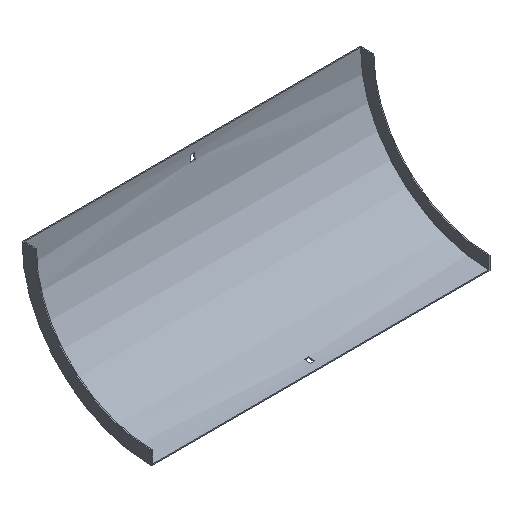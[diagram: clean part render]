
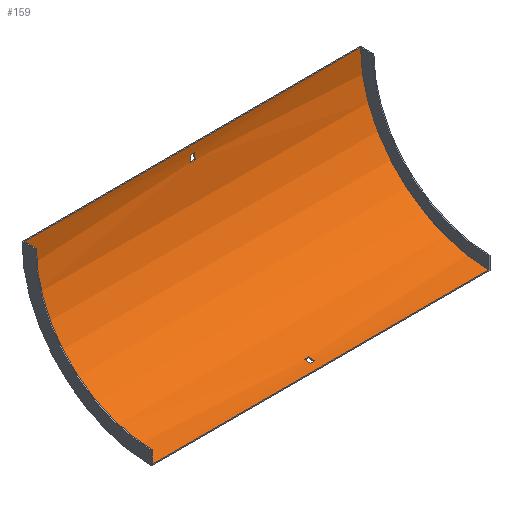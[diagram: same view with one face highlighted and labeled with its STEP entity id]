
A CAD part, isometric view. The second image highlights one B-rep face of the part: STEP entity #159.
In plain terms, the highlighted cylindrical face has radius 192.5 mm (diameter 385 mm), a partial arc.
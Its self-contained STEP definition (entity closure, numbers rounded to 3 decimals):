
#1 = VERTEX_POINT ( 'NONE', #11 ) ;
#2 = CARTESIAN_POINT ( 'NONE',  ( -3.25, -182., -192.126 ) ) ;
#11 = CARTESIAN_POINT ( 'NONE',  ( 3.25, -2.649, -21. ) ) ;
#17 = VERTEX_POINT ( 'NONE', #482 ) ;
#25 = FACE_BOUND ( 'NONE', #585, .T. ) ;
#39 = CARTESIAN_POINT ( 'NONE',  ( -252., -194., -192.5 ) ) ;
#43 = CARTESIAN_POINT ( 'NONE',  ( 3.25, -182., -192.126 ) ) ;
#53 = VERTEX_POINT ( 'NONE', #596 ) ;
#54 = VECTOR ( 'NONE', #331, 1000. ) ;
#59 = ORIENTED_EDGE ( 'NONE', *, *, #245, .F. ) ;
#68 = CARTESIAN_POINT ( 'NONE',  ( -3.25, -173., -191.351 ) ) ;
#73 = CARTESIAN_POINT ( 'NONE',  ( 253.5, -1.874, -12. ) ) ;
#75 = DIRECTION ( 'NONE',  ( 0., 0., 1. ) ) ;
#79 = LINE ( 'NONE', #73, #186 ) ;
#83 = LINE ( 'NONE', #181, #129 ) ;
#91 = LINE ( 'NONE', #426, #594 ) ;
#92 = VERTEX_POINT ( 'NONE', #173 ) ;
#93 = CARTESIAN_POINT ( 'NONE',  ( -3.25, -194., 0. ) ) ;
#103 = ORIENTED_EDGE ( 'NONE', *, *, #358, .F. ) ;
#105 = AXIS2_PLACEMENT_3D ( 'NONE', #492, #223, #269 ) ;
#112 = VECTOR ( 'NONE', #418, 1000. ) ;
#113 = DIRECTION ( 'NONE',  ( 0., 0., 1. ) ) ;
#117 = AXIS2_PLACEMENT_3D ( 'NONE', #171, #174, #451 ) ;
#120 = EDGE_LOOP ( 'NONE', ( #537, #59, #254, #300 ) ) ;
#129 = VECTOR ( 'NONE', #280, 1000. ) ;
#141 = DIRECTION ( 'NONE',  ( -1., 0., 0. ) ) ;
#147 = CIRCLE ( 'NONE', #411, 192.5 ) ;
#157 = ORIENTED_EDGE ( 'NONE', *, *, #593, .F. ) ;
#159 = ADVANCED_FACE ( 'NONE', ( #25, #225, #592 ), #408, .F. ) ;
#163 = VERTEX_POINT ( 'NONE', #2 ) ;
#171 = CARTESIAN_POINT ( 'NONE',  ( 3.25, -194., 0. ) ) ;
#173 = CARTESIAN_POINT ( 'NONE',  ( -3.25, -2.649, -21. ) ) ;
#174 = DIRECTION ( 'NONE',  ( 1., 0., 0. ) ) ;
#181 = CARTESIAN_POINT ( 'NONE',  ( 253.5, -182., -192.126 ) ) ;
#186 = VECTOR ( 'NONE', #547, 1000. ) ;
#208 = EDGE_CURVE ( 'NONE', #92, #1, #292, .T. ) ;
#212 = VERTEX_POINT ( 'NONE', #43 ) ;
#220 = CARTESIAN_POINT ( 'NONE',  ( 3.25, -194., 0. ) ) ;
#223 = DIRECTION ( 'NONE',  ( 1., 0., 0. ) ) ;
#225 = FACE_OUTER_BOUND ( 'NONE', #120, .T. ) ;
#226 = CARTESIAN_POINT ( 'NONE',  ( 252., -194., 0. ) ) ;
#233 = VERTEX_POINT ( 'NONE', #243 ) ;
#234 = DIRECTION ( 'NONE',  ( 1., 0., 0. ) ) ;
#240 = CIRCLE ( 'NONE', #259, 192.5 ) ;
#243 = CARTESIAN_POINT ( 'NONE',  ( -252., -1.5, 0. ) ) ;
#245 = EDGE_CURVE ( 'NONE', #53, #571, #91, .T. ) ;
#254 = ORIENTED_EDGE ( 'NONE', *, *, #330, .T. ) ;
#259 = AXIS2_PLACEMENT_3D ( 'NONE', #93, #141, #370 ) ;
#269 = DIRECTION ( 'NONE',  ( 0., 0., -1. ) ) ;
#272 = CIRCLE ( 'NONE', #320, 192.5 ) ;
#273 = DIRECTION ( 'NONE',  ( 1., 0., 0. ) ) ;
#280 = DIRECTION ( 'NONE',  ( -1., 0., 0. ) ) ;
#284 = LINE ( 'NONE', #519, #112 ) ;
#285 = DIRECTION ( 'NONE',  ( -1., 0., 0. ) ) ;
#287 = EDGE_CURVE ( 'NONE', #212, #163, #83, .T. ) ;
#292 = LINE ( 'NONE', #327, #525 ) ;
#299 = ORIENTED_EDGE ( 'NONE', *, *, #335, .T. ) ;
#300 = ORIENTED_EDGE ( 'NONE', *, *, #506, .T. ) ;
#307 = CIRCLE ( 'NONE', #117, 192.5 ) ;
#313 = EDGE_CURVE ( 'NONE', #163, #436, #376, .T. ) ;
#314 = ORIENTED_EDGE ( 'NONE', *, *, #321, .F. ) ;
#315 = DIRECTION ( 'NONE',  ( -1., 0., 0. ) ) ;
#320 = AXIS2_PLACEMENT_3D ( 'NONE', #226, #273, #113 ) ;
#321 = EDGE_CURVE ( 'NONE', #17, #530, #79, .T. ) ;
#327 = CARTESIAN_POINT ( 'NONE',  ( 253.5, -2.649, -21. ) ) ;
#330 = EDGE_CURVE ( 'NONE', #53, #479, #272, .T. ) ;
#331 = DIRECTION ( 'NONE',  ( -1., 0., 0. ) ) ;
#335 = EDGE_CURVE ( 'NONE', #470, #212, #147, .T. ) ;
#346 = ORIENTED_EDGE ( 'NONE', *, *, #549, .T. ) ;
#358 = EDGE_CURVE ( 'NONE', #1, #17, #307, .T. ) ;
#363 = DIRECTION ( 'NONE',  ( 0., 0., 1. ) ) ;
#370 = DIRECTION ( 'NONE',  ( 0., 0., 1. ) ) ;
#376 = CIRCLE ( 'NONE', #105, 192.5 ) ;
#378 = CARTESIAN_POINT ( 'NONE',  ( -3.25, -1.874, -12. ) ) ;
#404 = DIRECTION ( 'NONE',  ( -1., 0., 0. ) ) ;
#408 = CYLINDRICAL_SURFACE ( 'NONE', #535, 192.5 ) ;
#411 = AXIS2_PLACEMENT_3D ( 'NONE', #220, #404, #363 ) ;
#418 = DIRECTION ( 'NONE',  ( 1., 0., 0. ) ) ;
#426 = CARTESIAN_POINT ( 'NONE',  ( 252., -194., -192.5 ) ) ;
#436 = VERTEX_POINT ( 'NONE', #68 ) ;
#440 = ORIENTED_EDGE ( 'NONE', *, *, #313, .T. ) ;
#451 = DIRECTION ( 'NONE',  ( 0., 0., -1. ) ) ;
#457 = CIRCLE ( 'NONE', #583, 192.5 ) ;
#470 = VERTEX_POINT ( 'NONE', #527 ) ;
#479 = VERTEX_POINT ( 'NONE', #509 ) ;
#482 = CARTESIAN_POINT ( 'NONE',  ( 3.25, -1.874, -12. ) ) ;
#491 = ORIENTED_EDGE ( 'NONE', *, *, #287, .T. ) ;
#492 = CARTESIAN_POINT ( 'NONE',  ( -3.25, -194., 0. ) ) ;
#506 = EDGE_CURVE ( 'NONE', #479, #233, #559, .T. ) ;
#509 = CARTESIAN_POINT ( 'NONE',  ( 252., -1.5, 0. ) ) ;
#518 = CARTESIAN_POINT ( 'NONE',  ( 252., -1.5, 0. ) ) ;
#519 = CARTESIAN_POINT ( 'NONE',  ( 253.5, -173., -191.351 ) ) ;
#525 = VECTOR ( 'NONE', #566, 1000. ) ;
#527 = CARTESIAN_POINT ( 'NONE',  ( 3.25, -173., -191.351 ) ) ;
#528 = EDGE_LOOP ( 'NONE', ( #491, #440, #346, #299 ) ) ;
#530 = VERTEX_POINT ( 'NONE', #378 ) ;
#535 = AXIS2_PLACEMENT_3D ( 'NONE', #589, #315, #75 ) ;
#537 = ORIENTED_EDGE ( 'NONE', *, *, #541, .F. ) ;
#541 = EDGE_CURVE ( 'NONE', #571, #233, #457, .T. ) ;
#547 = DIRECTION ( 'NONE',  ( -1., 0., 0. ) ) ;
#549 = EDGE_CURVE ( 'NONE', #436, #470, #284, .T. ) ;
#555 = ORIENTED_EDGE ( 'NONE', *, *, #208, .F. ) ;
#556 = DIRECTION ( 'NONE',  ( 0., 0., 1. ) ) ;
#559 = LINE ( 'NONE', #518, #54 ) ;
#566 = DIRECTION ( 'NONE',  ( 1., 0., 0. ) ) ;
#571 = VERTEX_POINT ( 'NONE', #39 ) ;
#583 = AXIS2_PLACEMENT_3D ( 'NONE', #597, #234, #556 ) ;
#585 = EDGE_LOOP ( 'NONE', ( #157, #314, #103, #555 ) ) ;
#589 = CARTESIAN_POINT ( 'NONE',  ( 253.5, -194., 0. ) ) ;
#592 = FACE_BOUND ( 'NONE', #528, .T. ) ;
#593 = EDGE_CURVE ( 'NONE', #530, #92, #240, .T. ) ;
#594 = VECTOR ( 'NONE', #285, 1000. ) ;
#596 = CARTESIAN_POINT ( 'NONE',  ( 252., -194., -192.5 ) ) ;
#597 = CARTESIAN_POINT ( 'NONE',  ( -252., -194., 0. ) ) ;
